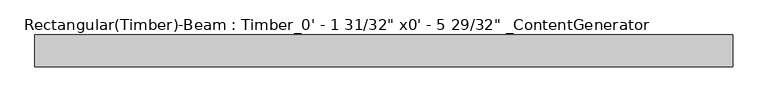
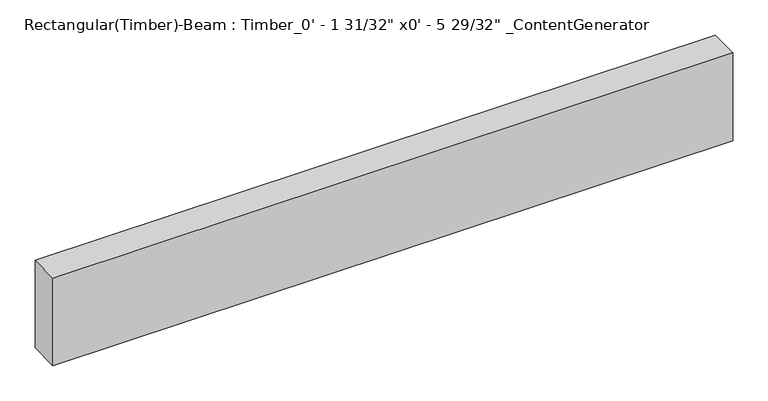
"""IFC4 building model written with IfcOpenShell, lengths in millimetres: beam geometry."""

from ifc_helpers import new_model, si_unit, frame, origin, place, context, project, spatial, polyline, outline, extrude, source, transform, mapped, element, save


def beam_8a7418d2(model_context):
    return source(origin(), model_context, "Body", "SweptSolid", [
        extrude(outline(polyline([(558.8, 25.4), (558.8, -25.4), (-558.8, -25.4), (-558.8, 25.4), (558.8, 25.4)])), frame((0.0, 0.0, -76.2), z_axis=(0.0, 0.0, 1.0), x_axis=(1.0, 0.0, 0.0)), (0.0, 0.0, 1.0), 152.4),
    ])


if __name__ == "__main__":
    model = new_model("IFC4")
    model_context = context("Model", 3, world=origin())
    ifc_project = project(units=[si_unit("LENGTHUNIT", "METRE", prefix="MILLI")], contexts=[model_context])
    site = spatial("IfcSite", under=ifc_project)
    building = spatial("IfcBuilding", under=site)
    placement = place(None, origin())
    beam_shape = beam_8a7418d2(model_context)
    element("IfcBeam", 1, ObjectType="Rectangular(Timber)-Beam : Timber_0' - 1 31/32\" x0' - 5 29/32\" _ContentGenerator", at=placement, inside=building, context=model_context, shape_type="MappedRepresentation", body=[
        mapped(beam_shape, transform((0.0, 0.0, 0.0), x_axis=(1.0, 0.0, 0.0), y_axis=(0.0, 1.0, 0.0), z_axis=(0.0, 0.0, 1.0))),
    ])
    save(model, "model.ifc")
